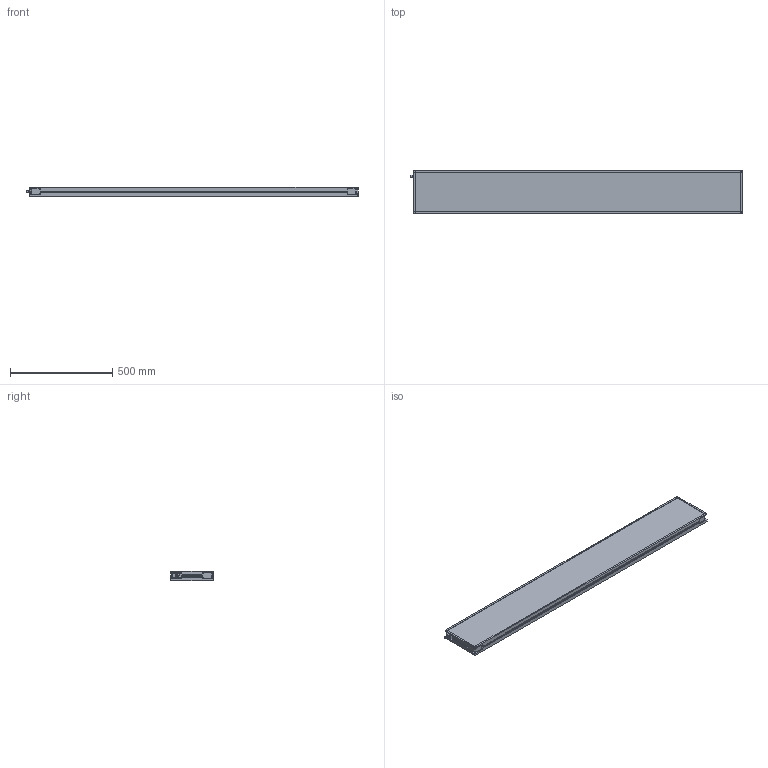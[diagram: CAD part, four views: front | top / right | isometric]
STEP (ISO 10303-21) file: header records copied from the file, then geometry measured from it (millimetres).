
FILE_DESCRIPTION (( 'STEP AP214' ), '1' );
FILE_NAME ('MBACK-xxxx-xxx-M1_CLIENT200x1600.STEP', '2022-03-31T15:57:57', ( '' ), ( '' ), 'SwSTEP 2.0', 'SolidWorks 2020', '' );
FILE_SCHEMA (( 'AUTOMOTIVE_DESIGN' ));
Length unit declared in the file: millimetre
Products named in the file (1): MBACK-xxxx-xxx-M1_CLIENT200x1600
Bounding box: 1625.9 x 208 x 45.5 mm (x, y, z)
Volume: 13847268 mm3; surface area: 910112 mm2
Topology: 1 solids, 1 shells, 442 faces, 1144 edges, 760 vertices
Faces by surface type: plane 249, cylinder 105, bspline 80, cone 8
Entity records: 17236 total; most frequent: CARTESIAN_POINT 6699, ORIENTED_EDGE 2288, DIRECTION 1936, EDGE_CURVE 1144, VERTEX_POINT 760, VECTOR 758, LINE 758, AXIS2_PLACEMENT_3D 589
